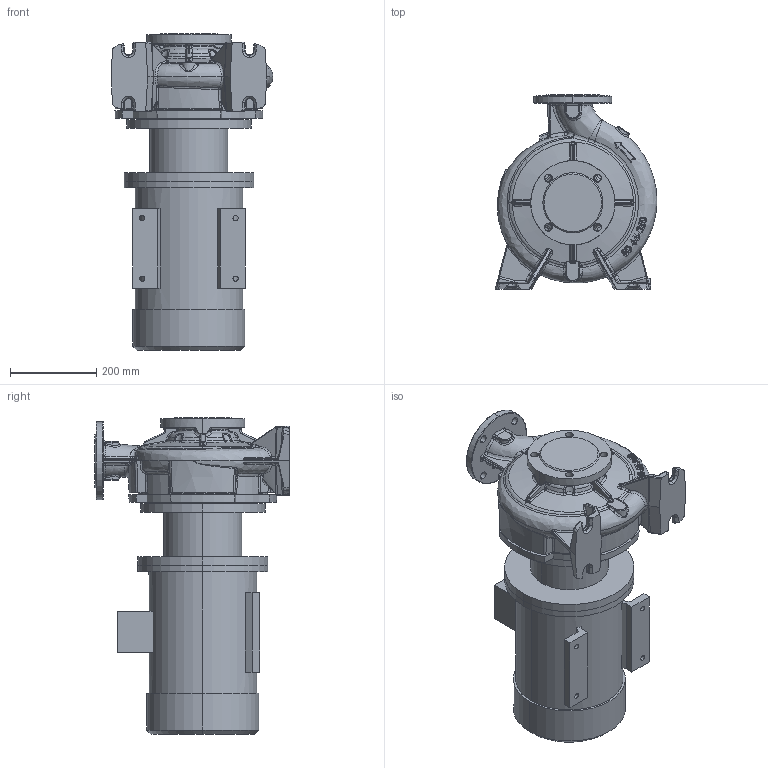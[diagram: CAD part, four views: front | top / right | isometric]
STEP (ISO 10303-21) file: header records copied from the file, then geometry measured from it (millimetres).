
FILE_DESCRIPTION (( 'STEP AP203' ), '1' );
FILE_NAME ('KRM 80-65-250-4-5,5.STEP', '2026-05-07T05:35:11', ( '' ), ( '' ), 'SwSTEP 2.0', 'SolidWorks 2016', '' );
FILE_SCHEMA (( 'CONFIG_CONTROL_DESIGN' ));
Length unit declared in the file: millimetre
Products named in the file (1): KRM 80-65-250-4-5,5
Bounding box: 374.33 x 450 x 732.8 mm (x, y, z)
Volume: 42284702 mm3; surface area: 1694784.8 mm2
Topology: 8 solids, 8 shells, 1125 faces, 2712 edges, 1615 vertices
Faces by surface type: bspline 507, cylinder 225, plane 214, torus 75, cone 67, sphere 37
Entity records: 93735 total; most frequent: CARTESIAN_POINT 71441, ORIENTED_EDGE 5374, DIRECTION 3647, EDGE_CURVE 2687, VERTEX_POINT 1615, AXIS2_PLACEMENT_3D 1512, EDGE_LOOP 1186, FACE_OUTER_BOUND 1125
